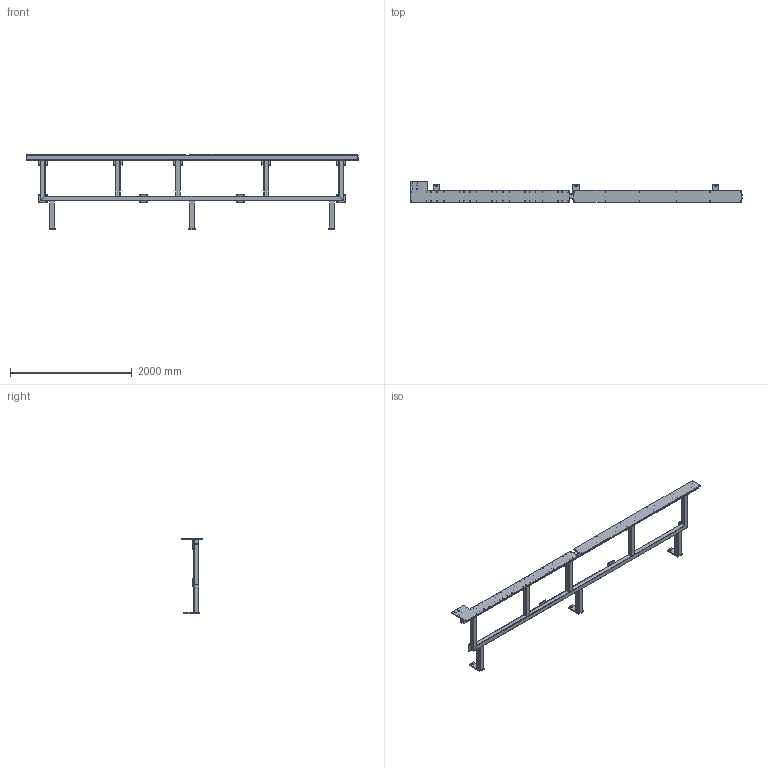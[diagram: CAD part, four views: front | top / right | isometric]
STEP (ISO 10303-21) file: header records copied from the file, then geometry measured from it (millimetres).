
FILE_DESCRIPTION(/* description */ ('Grundgestell'),/* implementation_level */ '2;1');
FILE_NAME(/* name */ '00054698.stp',/* time_stamp */ '2023-08-08T14:11:16+02:00',/* author */ ('MD18'),/* organization */ (''),/* preprocessor_version */ 'ST-DEVELOPER v19.2',/* originating_system */ 'Autodesk Inventor 2023',/* authorisation */ '');
FILE_SCHEMA (('AUTOMOTIVE_DESIGN { 1 0 10303 214 3 1 1 }'));
Length unit declared in the file: millimetre
Products named in the file (11): 00054698; 00054698-S01; 00054698-S02; 00054698-S03; 00054698-S07; 00054698-S09; 00054698-S05; 00054698-S06; 00054698-S04; 00054698-S08; 00054698-S10
Assembly tree (26 placements, depth 2):
  00054698
    00054698-S01
    00054698-S02  x2
    00054698-S03
    00054698-S05  x3
    00054698-S06  x3
    00054698-S07
    00054698-S08  x9
    00054698-S09
    00054698-S04  x3
    00054698-S10  x2
Bounding box: 5456 x 340 x 1235 mm (x, y, z)
Volume: 38539153 mm3; surface area: 11817470.9 mm2
Topology: 26 solids, 26 shells, 385 faces, 999 edges, 666 vertices
Faces by surface type: plane 198, cylinder 187
Full cylindrical faces by diameter (mm): 4.134 x4, 8.376 x36, 10.106 x36, 13.5 x20, 34.376 x3
Entity records: 6893 total; most frequent: DIRECTION 1187, CARTESIAN_POINT 1083, ORIENTED_EDGE 1026, EDGE_CURVE 513, AXIS2_PLACEMENT_3D 446, VERTEX_POINT 342, EDGE_LOOP 331, LINE 295
